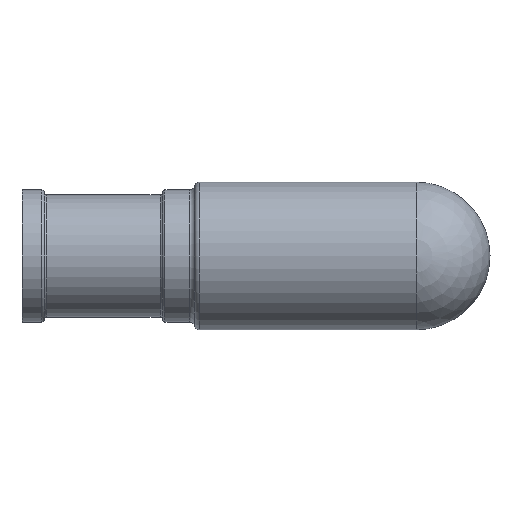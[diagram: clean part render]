
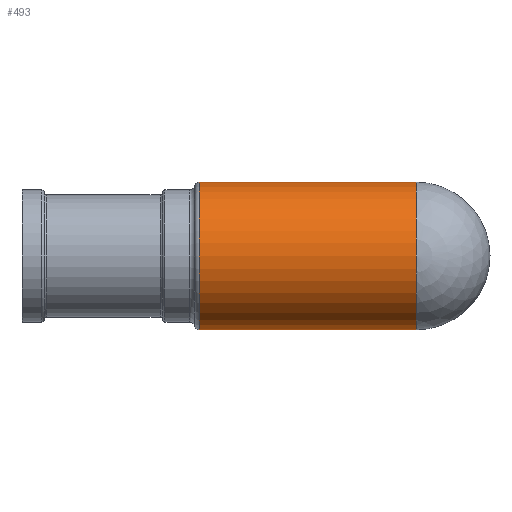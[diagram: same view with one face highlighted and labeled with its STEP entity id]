
A CAD part, front view. The second image highlights one B-rep face of the part: STEP entity #493.
In plain terms, the highlighted cylindrical face has radius 15 mm (diameter 30 mm), a partial arc.
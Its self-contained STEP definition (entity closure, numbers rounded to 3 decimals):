
#6 = EDGE_LOOP ( 'NONE', ( #917, #2161, #804, #1088 ) ) ;
#110 = CARTESIAN_POINT ( 'NONE',  ( 0., 0., 0. ) ) ;
#175 = CARTESIAN_POINT ( 'NONE',  ( -43.98, 0., -15. ) ) ;
#212 = EDGE_CURVE ( 'NONE', #948, #623, #2189, .T. ) ;
#270 = DIRECTION ( 'NONE',  ( 0., 0., -1. ) ) ;
#277 = DIRECTION ( 'NONE',  ( 0., 0., 1. ) ) ;
#493 = ADVANCED_FACE ( 'NONE', ( #1618 ), #1770, .T. ) ;
#501 = DIRECTION ( 'NONE',  ( -1., 0., 0. ) ) ;
#514 = VERTEX_POINT ( 'NONE', #1459 ) ;
#524 = CARTESIAN_POINT ( 'NONE',  ( -43.907, 0., 15. ) ) ;
#596 = CIRCLE ( 'NONE', #1122, 15. ) ;
#623 = VERTEX_POINT ( 'NONE', #1112 ) ;
#708 = LINE ( 'NONE', #524, #2052 ) ;
#804 = ORIENTED_EDGE ( 'NONE', *, *, #1391, .T. ) ;
#917 = ORIENTED_EDGE ( 'NONE', *, *, #1290, .F. ) ;
#940 = EDGE_CURVE ( 'NONE', #514, #1293, #596, .T. ) ;
#948 = VERTEX_POINT ( 'NONE', #1614 ) ;
#1088 = ORIENTED_EDGE ( 'NONE', *, *, #940, .T. ) ;
#1092 = AXIS2_PLACEMENT_3D ( 'NONE', #110, #1277, #277 ) ;
#1112 = CARTESIAN_POINT ( 'NONE',  ( 0., 0., 15. ) ) ;
#1122 = AXIS2_PLACEMENT_3D ( 'NONE', #1136, #1267, #270 ) ;
#1136 = CARTESIAN_POINT ( 'NONE',  ( -43.98, 0., 0. ) ) ;
#1161 = CARTESIAN_POINT ( 'NONE',  ( -43.907, 0., -15. ) ) ;
#1197 = VECTOR ( 'NONE', #501, 1000. ) ;
#1252 = DIRECTION ( 'NONE',  ( -1., 0., 0. ) ) ;
#1267 = DIRECTION ( 'NONE',  ( 1., 0., 0. ) ) ;
#1277 = DIRECTION ( 'NONE',  ( -1., 0., 0. ) ) ;
#1290 = EDGE_CURVE ( 'NONE', #948, #1293, #1365, .T. ) ;
#1293 = VERTEX_POINT ( 'NONE', #175 ) ;
#1365 = LINE ( 'NONE', #1161, #1197 ) ;
#1391 = EDGE_CURVE ( 'NONE', #623, #514, #708, .T. ) ;
#1400 = CARTESIAN_POINT ( 'NONE',  ( -43.907, 0., 0. ) ) ;
#1459 = CARTESIAN_POINT ( 'NONE',  ( -43.98, 0., 15. ) ) ;
#1602 = DIRECTION ( 'NONE',  ( 0., 0., 1. ) ) ;
#1614 = CARTESIAN_POINT ( 'NONE',  ( 0., 0., -15. ) ) ;
#1618 = FACE_OUTER_BOUND ( 'NONE', #6, .T. ) ;
#1770 = CYLINDRICAL_SURFACE ( 'NONE', #2075, 15. ) ;
#2052 = VECTOR ( 'NONE', #1252, 1000. ) ;
#2075 = AXIS2_PLACEMENT_3D ( 'NONE', #1400, #2086, #1602 ) ;
#2086 = DIRECTION ( 'NONE',  ( -1., 0., 0. ) ) ;
#2161 = ORIENTED_EDGE ( 'NONE', *, *, #212, .T. ) ;
#2189 = CIRCLE ( 'NONE', #1092, 15. ) ;
